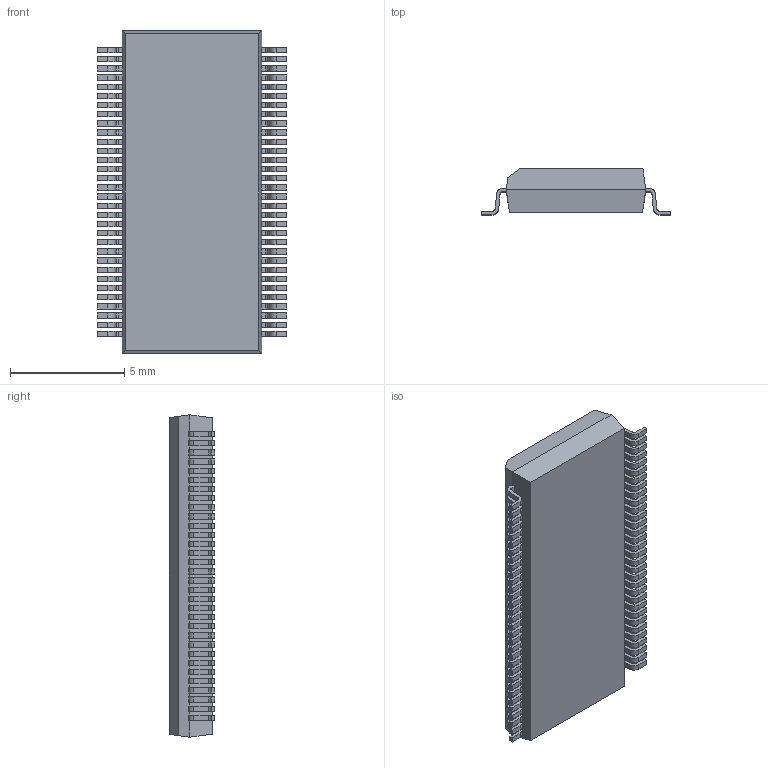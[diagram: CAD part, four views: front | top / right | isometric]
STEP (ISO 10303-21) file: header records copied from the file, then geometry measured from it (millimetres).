
FILE_DESCRIPTION (( 'STEP AP214' ), '1' );
FILE_NAME ('SSOP40P810X200-64_MO-152.FE.STEP', '2014-10-30T11:24:46', ( 'Tester2' ), ( '' ), 'SwSTEP 2.0', 'SolidWorks 2012', '' );
FILE_SCHEMA (( 'AUTOMOTIVE_DESIGN' ));
Length unit declared in the file: millimetre
Products named in the file (1): SSOP40P810X200-64_MO-152.FE
Bounding box: 8.3 x 2 x 14.1 mm (x, y, z)
Volume: 161.2 mm3; surface area: 326.5 mm2
Topology: 1 solids, 1 shells, 846 faces, 2525 edges, 1682 vertices
Faces by surface type: plane 588, cylinder 258
Entity records: 37552 total; most frequent: CARTESIAN_POINT 5054, ORIENTED_EDGE 5050, DIRECTION 4735, EDGE_CURVE 2525, LINE 2009, VECTOR 2009, VERTEX_POINT 1682, AXIS2_PLACEMENT_3D 1363
